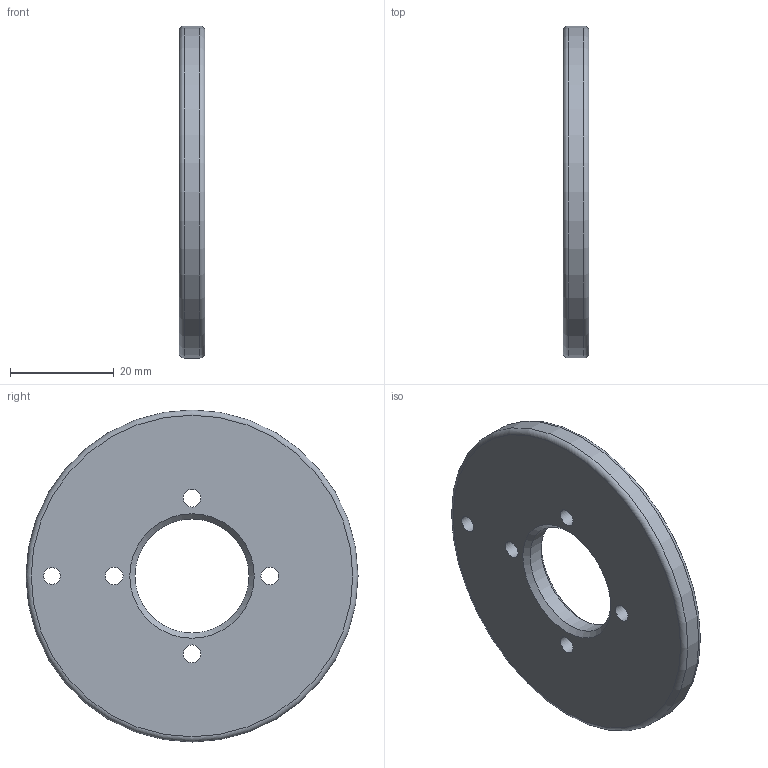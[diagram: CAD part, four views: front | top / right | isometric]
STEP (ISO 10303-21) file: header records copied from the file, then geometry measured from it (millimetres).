
FILE_DESCRIPTION(/* description */ (''),/* implementation_level */ '2;1');
FILE_NAME(/* name */ '',/* time_stamp */ '2026-08-27T17:04:40+09:00',/* author */ ('jhkim'),/* organization */ (''),/* preprocessor_version */ 'ST-DEVELOPER v20.1',/* originating_system */ 'Autodesk Inventor 2027',/* authorisation */ '');
FILE_SCHEMA (('AUTOMOTIVE_DESIGN { 1 0 10303 214 3 1 1 }'));
Length unit declared in the file: millimetre
Products named in the file (1): 돌림판
Bounding box: 5 x 64 x 64 mm (x, y, z)
Volume: 13804.5 mm3; surface area: 6948.2 mm2
Topology: 1 solids, 1 shells, 13 faces, 31 edges, 20 vertices
Faces by surface type: cylinder 7, cone 2, plane 2, torus 2
Full cylindrical faces by diameter (mm): 3.242 x1, 3.4 x4, 22 x1, 64 x1
Entity records: 458 total; most frequent: DIRECTION 81, CARTESIAN_POINT 65, ORIENTED_EDGE 62, AXIS2_PLACEMENT_3D 36, EDGE_CURVE 31, EDGE_LOOP 25, CIRCLE 22, VERTEX_POINT 20
